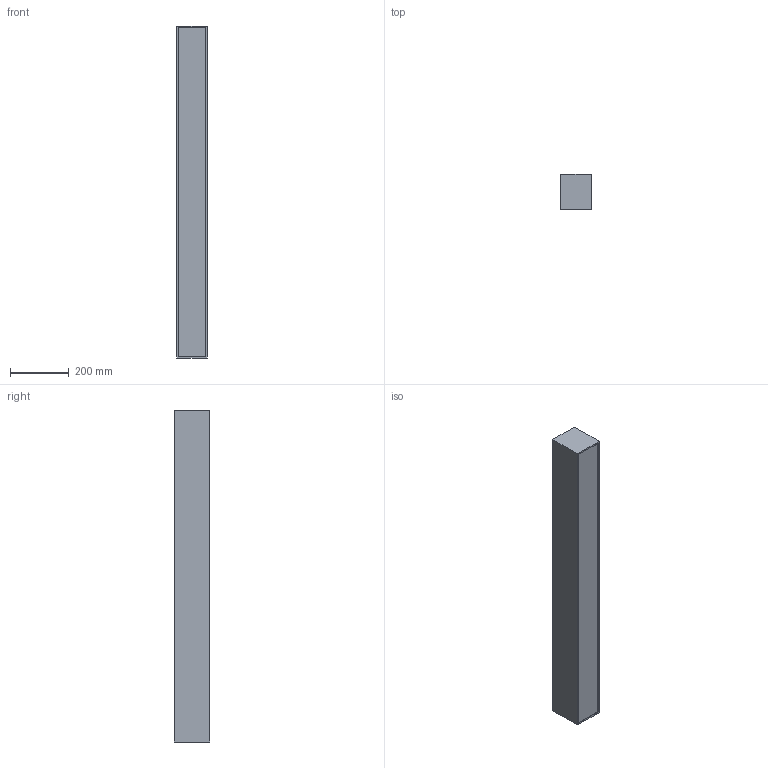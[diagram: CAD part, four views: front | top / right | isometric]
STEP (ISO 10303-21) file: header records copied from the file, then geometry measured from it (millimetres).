
FILE_DESCRIPTION (( 'STEP AP214' ), '1' );
FILE_NAME ('mLight KleoX105 LED_1134mm_Direct.STEP', '2020-07-29T02:53:24', ( '' ), ( '' ), 'SwSTEP 2.0', 'SolidWorks 2017', '' );
FILE_SCHEMA (( 'AUTOMOTIVE_DESIGN' ));
Length unit declared in the file: millimetre
Products named in the file (1): mLight KleoX105 LED_1134mm_Direct
Bounding box: 105 x 120 x 1134 mm (x, y, z)
Volume: 13443683.6 mm3; surface area: 666630.1 mm2
Topology: 1 solids, 1 shells, 122 faces, 342 edges, 228 vertices
Faces by surface type: plane 69, cylinder 53
Entity records: 3986 total; most frequent: DIRECTION 694, CARTESIAN_POINT 693, ORIENTED_EDGE 684, EDGE_CURVE 342, LINE 236, VECTOR 236, AXIS2_PLACEMENT_3D 229, VERTEX_POINT 228
